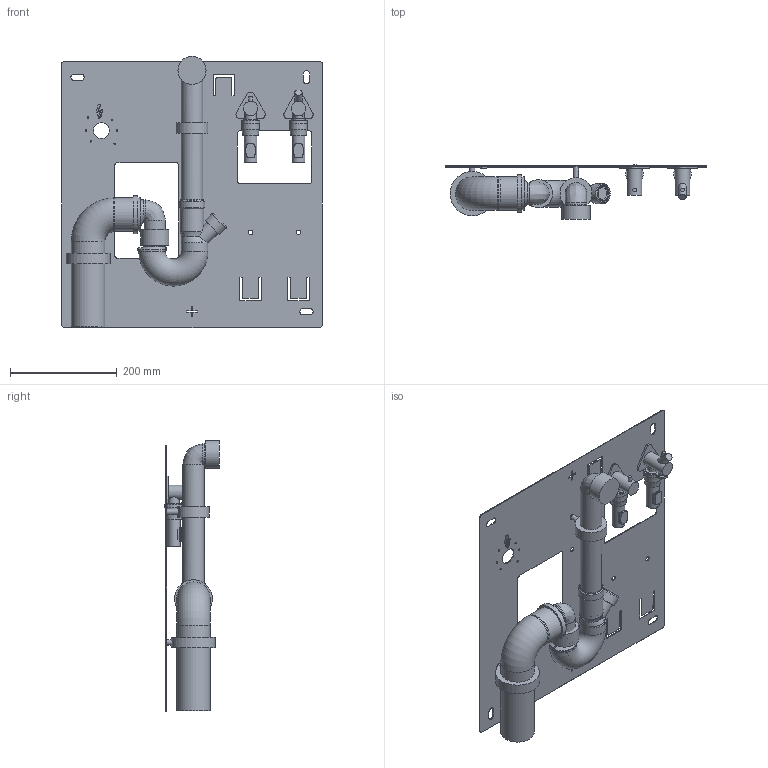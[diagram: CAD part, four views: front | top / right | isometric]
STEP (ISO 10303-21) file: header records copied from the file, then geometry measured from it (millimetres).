
FILE_DESCRIPTION(('STEP AP214'),'1');
FILE_NAME('NYFFix_7980R.STP','2025-09-23T14:22:44',(' '),(' '),'Spatial InterOp 3D',' ',' ');
FILE_SCHEMA(('AUTOMOTIVE_DESIGN { 1 0 10303 214 1 1 1 1 }'));
Length unit declared in the file: millimetre
Products named in the file (1): Torus
Bounding box: 490 x 102.31 x 509.28 mm (x, y, z)
Volume: 1130075.2 mm3; surface area: 859970.8 mm2
Topology: 34 solids, 34 shells, 1076 faces, 2948 edges, 1942 vertices
Faces by surface type: plane 804, cylinder 213, cone 25, torus 19, bspline 15
Full cylindrical faces by diameter (mm): 0 x4, 3 x6, 5.1 x6, 7 x2, 8.5 x5, 10 x2, 13.867 x1, 14 x1, 20.954 x2, 21 x4, 22 x1, 22.622 x1, 24.04 x2, 26.818 x2, 27.32 x2, 30 x2, 30.2 x2, 33.249 x2, 33.62 x2, 36 x3, 36.1 x2, 38 x1, 39 x1, 40 x5, 40.1 x2, 40.5 x1, 40.625 x1, 44.5 x6, 46 x2, 48 x2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
Entity records: 36406 total; most frequent: CARTESIAN_POINT 7705, ORIENTED_EDGE 5552, DIRECTION 5343, EDGE_CURVE 2776, LINE 2203, VECTOR 2203, VERTEX_POINT 1910, AXIS2_PLACEMENT_3D 1570
